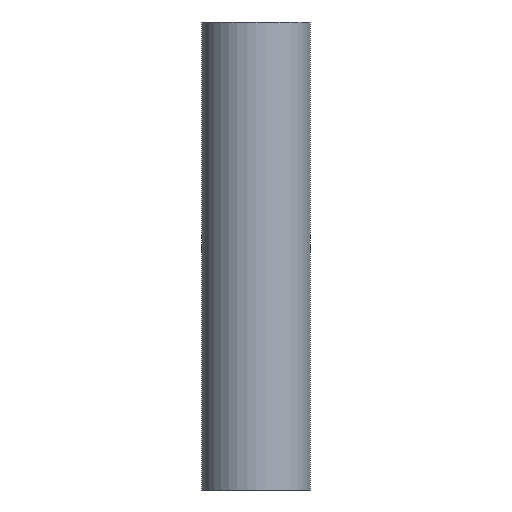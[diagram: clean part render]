
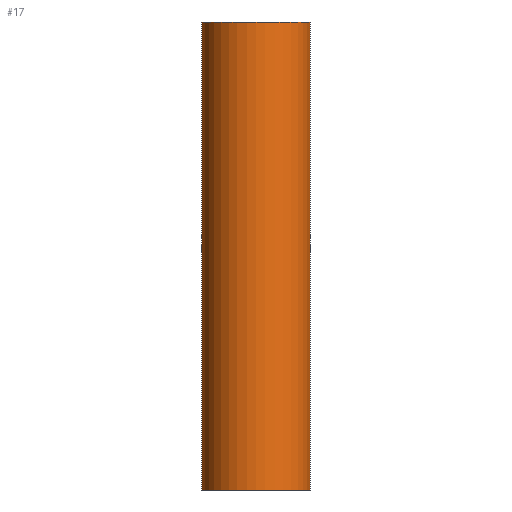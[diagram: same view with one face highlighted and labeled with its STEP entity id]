
A CAD part, front view. The second image highlights one B-rep face of the part: STEP entity #17.
In plain terms, the highlighted cylindrical face has radius 21.4 mm (diameter 42.8 mm), a full revolution.
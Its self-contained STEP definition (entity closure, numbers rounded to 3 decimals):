
#17 = ADVANCED_FACE('',(#18),#32,.T.);
#18 = FACE_BOUND('',#19,.F.);
#19 = EDGE_LOOP('',(#20,#50,#77,#78));
#20 = ORIENTED_EDGE('',*,*,#21,.T.);
#21 = EDGE_CURVE('',#22,#24,#26,.T.);
#22 = VERTEX_POINT('',#23);
#23 = CARTESIAN_POINT('',(21.4,0.,95.6));
#24 = VERTEX_POINT('',#25);
#25 = CARTESIAN_POINT('',(21.4,0.,279.4));
#26 = SEAM_CURVE('',#27,(#31,#43),.PCURVE_S1.);
#27 = LINE('',#28,#29);
#28 = CARTESIAN_POINT('',(21.4,0.,95.6));
#29 = VECTOR('',#30,1.);
#30 = DIRECTION('',(0.,0.,1.));
#31 = PCURVE('',#32,#37);
#32 = CYLINDRICAL_SURFACE('',#33,21.4);
#33 = AXIS2_PLACEMENT_3D('',#34,#35,#36);
#34 = CARTESIAN_POINT('',(0.,0.,95.6));
#35 = DIRECTION('',(-0.,-0.,-1.));
#36 = DIRECTION('',(1.,0.,0.));
#37 = DEFINITIONAL_REPRESENTATION('',(#38),#42);
#38 = LINE('',#39,#40);
#39 = CARTESIAN_POINT('',(-0.,0.));
#40 = VECTOR('',#41,1.);
#41 = DIRECTION('',(-0.,-1.));
#42 = ( GEOMETRIC_REPRESENTATION_CONTEXT(2) 
PARAMETRIC_REPRESENTATION_CONTEXT() REPRESENTATION_CONTEXT('2D SPACE',''
  ) );
#43 = PCURVE('',#32,#44);
#44 = DEFINITIONAL_REPRESENTATION('',(#45),#49);
#45 = LINE('',#46,#47);
#46 = CARTESIAN_POINT('',(-6.283,0.));
#47 = VECTOR('',#48,1.);
#48 = DIRECTION('',(-0.,-1.));
#49 = ( GEOMETRIC_REPRESENTATION_CONTEXT(2) 
PARAMETRIC_REPRESENTATION_CONTEXT() REPRESENTATION_CONTEXT('2D SPACE',''
  ) );
#50 = ORIENTED_EDGE('',*,*,#51,.T.);
#51 = EDGE_CURVE('',#24,#24,#52,.T.);
#52 = SURFACE_CURVE('',#53,(#58,#65),.PCURVE_S1.);
#53 = CIRCLE('',#54,21.4);
#54 = AXIS2_PLACEMENT_3D('',#55,#56,#57);
#55 = CARTESIAN_POINT('',(0.,0.,279.4));
#56 = DIRECTION('',(0.,0.,1.));
#57 = DIRECTION('',(1.,0.,0.));
#58 = PCURVE('',#32,#59);
#59 = DEFINITIONAL_REPRESENTATION('',(#60),#64);
#60 = LINE('',#61,#62);
#61 = CARTESIAN_POINT('',(-0.,-183.8));
#62 = VECTOR('',#63,1.);
#63 = DIRECTION('',(-1.,0.));
#64 = ( GEOMETRIC_REPRESENTATION_CONTEXT(2) 
PARAMETRIC_REPRESENTATION_CONTEXT() REPRESENTATION_CONTEXT('2D SPACE',''
  ) );
#65 = PCURVE('',#66,#71);
#66 = PLANE('',#67);
#67 = AXIS2_PLACEMENT_3D('',#68,#69,#70);
#68 = CARTESIAN_POINT('',(0.,0.,279.4));
#69 = DIRECTION('',(0.,0.,1.));
#70 = DIRECTION('',(1.,0.,-0.));
#71 = DEFINITIONAL_REPRESENTATION('',(#72),#76);
#72 = CIRCLE('',#73,21.4);
#73 = AXIS2_PLACEMENT_2D('',#74,#75);
#74 = CARTESIAN_POINT('',(0.,0.));
#75 = DIRECTION('',(1.,0.));
#76 = ( GEOMETRIC_REPRESENTATION_CONTEXT(2) 
PARAMETRIC_REPRESENTATION_CONTEXT() REPRESENTATION_CONTEXT('2D SPACE',''
  ) );
#77 = ORIENTED_EDGE('',*,*,#21,.F.);
#78 = ORIENTED_EDGE('',*,*,#79,.F.);
#79 = EDGE_CURVE('',#22,#22,#80,.T.);
#80 = SURFACE_CURVE('',#81,(#86,#93),.PCURVE_S1.);
#81 = CIRCLE('',#82,21.4);
#82 = AXIS2_PLACEMENT_3D('',#83,#84,#85);
#83 = CARTESIAN_POINT('',(0.,0.,95.6));
#84 = DIRECTION('',(0.,0.,1.));
#85 = DIRECTION('',(1.,0.,0.));
#86 = PCURVE('',#32,#87);
#87 = DEFINITIONAL_REPRESENTATION('',(#88),#92);
#88 = LINE('',#89,#90);
#89 = CARTESIAN_POINT('',(-0.,0.));
#90 = VECTOR('',#91,1.);
#91 = DIRECTION('',(-1.,0.));
#92 = ( GEOMETRIC_REPRESENTATION_CONTEXT(2) 
PARAMETRIC_REPRESENTATION_CONTEXT() REPRESENTATION_CONTEXT('2D SPACE',''
  ) );
#93 = PCURVE('',#94,#99);
#94 = PLANE('',#95);
#95 = AXIS2_PLACEMENT_3D('',#96,#97,#98);
#96 = CARTESIAN_POINT('',(0.,0.,95.6));
#97 = DIRECTION('',(0.,0.,1.));
#98 = DIRECTION('',(1.,0.,-0.));
#99 = DEFINITIONAL_REPRESENTATION('',(#100),#104);
#100 = CIRCLE('',#101,21.4);
#101 = AXIS2_PLACEMENT_2D('',#102,#103);
#102 = CARTESIAN_POINT('',(0.,0.));
#103 = DIRECTION('',(1.,0.));
#104 = ( GEOMETRIC_REPRESENTATION_CONTEXT(2) 
PARAMETRIC_REPRESENTATION_CONTEXT() REPRESENTATION_CONTEXT('2D SPACE',''
  ) );
